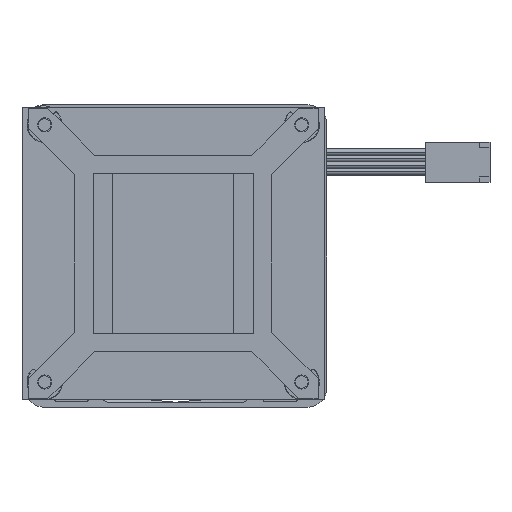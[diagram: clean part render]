
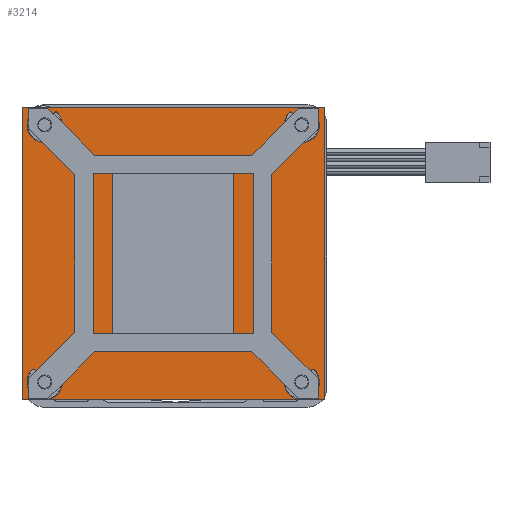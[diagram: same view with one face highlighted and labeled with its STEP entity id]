
A CAD part, front view. The second image highlights one B-rep face of the part: STEP entity #3214.
In plain terms, the highlighted planar face has unit normal (0, -1, 0) as drawn and (0, 0, 1) by its records, which use the part's own axes.
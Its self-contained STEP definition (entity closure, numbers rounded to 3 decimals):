
#29=CARTESIAN_POINT('',(25.5,25.5,0.));
#30=DIRECTION('',(0.,0.,1.));
#31=DIRECTION('',(1.,0.,0.));
#32=AXIS2_PLACEMENT_3D('',#29,#30,#31);
#34=CARTESIAN_POINT('',(25.5,25.5,0.));
#35=DIRECTION('',(0.,0.,1.));
#36=DIRECTION('',(-1.,0.,0.));
#37=AXIS2_PLACEMENT_3D('',#34,#35,#36);
#39=CARTESIAN_POINT('',(-25.5,25.5,0.));
#40=DIRECTION('',(0.,0.,1.));
#41=DIRECTION('',(1.,0.,0.));
#42=AXIS2_PLACEMENT_3D('',#39,#40,#41);
#44=CARTESIAN_POINT('',(-25.5,25.5,0.));
#45=DIRECTION('',(0.,0.,1.));
#46=DIRECTION('',(-1.,0.,0.));
#47=AXIS2_PLACEMENT_3D('',#44,#45,#46);
#49=CARTESIAN_POINT('',(-25.5,-25.5,0.));
#50=DIRECTION('',(0.,0.,1.));
#51=DIRECTION('',(1.,0.,0.));
#52=AXIS2_PLACEMENT_3D('',#49,#50,#51);
#54=CARTESIAN_POINT('',(-25.5,-25.5,0.));
#55=DIRECTION('',(0.,0.,1.));
#56=DIRECTION('',(-1.,0.,0.));
#57=AXIS2_PLACEMENT_3D('',#54,#55,#56);
#59=CARTESIAN_POINT('',(25.5,-25.5,0.));
#60=DIRECTION('',(0.,0.,1.));
#61=DIRECTION('',(1.,0.,0.));
#62=AXIS2_PLACEMENT_3D('',#59,#60,#61);
#64=CARTESIAN_POINT('',(25.5,-25.5,0.));
#65=DIRECTION('',(0.,0.,1.));
#66=DIRECTION('',(-1.,0.,0.));
#67=AXIS2_PLACEMENT_3D('',#64,#65,#66);
#69=DIRECTION('',(-1.,0.,0.));
#70=VECTOR('',#69,24.);
#71=CARTESIAN_POINT('',(12.,19.5,0.));
#72=LINE('',#71,#70);
#73=DIRECTION('',(1.,0.,0.));
#74=VECTOR('',#73,24.);
#75=CARTESIAN_POINT('',(-12.,-19.5,0.));
#76=LINE('',#75,#74);
#86=DIRECTION('',(-1.,0.,0.));
#87=VECTOR('',#86,60.);
#88=CARTESIAN_POINT('',(30.,29.,0.));
#89=LINE('',#88,#87);
#165=DIRECTION('',(0.,-1.,0.));
#166=VECTOR('',#165,58.);
#167=CARTESIAN_POINT('',(-30.,29.,0.));
#168=LINE('',#167,#166);
#503=DIRECTION('',(1.,0.,0.));
#504=VECTOR('',#503,60.);
#505=CARTESIAN_POINT('',(-30.,-29.,0.));
#506=LINE('',#505,#504);
#590=DIRECTION('',(0.,1.,0.));
#591=VECTOR('',#590,58.);
#592=CARTESIAN_POINT('',(30.,-29.,0.));
#593=LINE('',#592,#591);
#2357=DIRECTION('',(0.,-1.,0.));
#2358=VECTOR('',#2357,39.);
#2359=CARTESIAN_POINT('',(12.,19.5,0.));
#2360=LINE('',#2359,#2358);
#2377=DIRECTION('',(0.,1.,0.));
#2378=VECTOR('',#2377,39.);
#2379=CARTESIAN_POINT('',(-12.,-19.5,0.));
#2380=LINE('',#2379,#2378);
#2397=CARTESIAN_POINT('',(30.,29.,0.));
#2398=CARTESIAN_POINT('',(-30.,29.,0.));
#2399=VERTEX_POINT('',#2397);
#2400=VERTEX_POINT('',#2398);
#2401=CARTESIAN_POINT('',(30.,-29.,0.));
#2402=VERTEX_POINT('',#2401);
#2403=CARTESIAN_POINT('',(-30.,-29.,0.));
#2404=VERTEX_POINT('',#2403);
#2405=CARTESIAN_POINT('',(27.65,25.5,0.));
#2406=CARTESIAN_POINT('',(23.35,25.5,0.));
#2407=VERTEX_POINT('',#2405);
#2408=VERTEX_POINT('',#2406);
#2409=CARTESIAN_POINT('',(-23.35,25.5,0.));
#2410=CARTESIAN_POINT('',(-27.65,25.5,0.));
#2411=VERTEX_POINT('',#2409);
#2412=VERTEX_POINT('',#2410);
#2413=CARTESIAN_POINT('',(-23.35,-25.5,0.));
#2414=CARTESIAN_POINT('',(-27.65,-25.5,0.));
#2415=VERTEX_POINT('',#2413);
#2416=VERTEX_POINT('',#2414);
#2417=CARTESIAN_POINT('',(27.65,-25.5,0.));
#2418=CARTESIAN_POINT('',(23.35,-25.5,0.));
#2419=VERTEX_POINT('',#2417);
#2420=VERTEX_POINT('',#2418);
#3157=CARTESIAN_POINT('',(12.,19.5,0.));
#3158=CARTESIAN_POINT('',(-12.,19.5,0.));
#3159=VERTEX_POINT('',#3157);
#3160=VERTEX_POINT('',#3158);
#3161=CARTESIAN_POINT('',(-12.,-19.5,0.));
#3162=CARTESIAN_POINT('',(12.,-19.5,0.));
#3163=VERTEX_POINT('',#3161);
#3164=VERTEX_POINT('',#3162);
#3165=CARTESIAN_POINT('',(0.,0.,0.));
#3166=DIRECTION('',(0.,0.,1.));
#3167=DIRECTION('',(0.,-1.,0.));
#3168=AXIS2_PLACEMENT_3D('',#3165,#3166,#3167);
#3169=PLANE('',#3168);
#3171=ORIENTED_EDGE('',*,*,#3170,.F.);
#3173=ORIENTED_EDGE('',*,*,#3172,.F.);
#3175=ORIENTED_EDGE('',*,*,#3174,.F.);
#3177=ORIENTED_EDGE('',*,*,#3176,.F.);
#3178=EDGE_LOOP('',(#3171,#3173,#3175,#3177));
#3179=FACE_OUTER_BOUND('',#3178,.F.);
#3181=ORIENTED_EDGE('',*,*,#3180,.T.);
#3183=ORIENTED_EDGE('',*,*,#3182,.T.);
#3184=EDGE_LOOP('',(#3181,#3183));
#3185=FACE_BOUND('',#3184,.F.);
#3187=ORIENTED_EDGE('',*,*,#3186,.T.);
#3189=ORIENTED_EDGE('',*,*,#3188,.T.);
#3190=EDGE_LOOP('',(#3187,#3189));
#3191=FACE_BOUND('',#3190,.F.);
#3193=ORIENTED_EDGE('',*,*,#3192,.T.);
#3195=ORIENTED_EDGE('',*,*,#3194,.T.);
#3196=EDGE_LOOP('',(#3193,#3195));
#3197=FACE_BOUND('',#3196,.F.);
#3199=ORIENTED_EDGE('',*,*,#3198,.T.);
#3201=ORIENTED_EDGE('',*,*,#3200,.T.);
#3202=EDGE_LOOP('',(#3199,#3201));
#3203=FACE_BOUND('',#3202,.F.);
#3205=ORIENTED_EDGE('',*,*,#3204,.F.);
#3207=ORIENTED_EDGE('',*,*,#3206,.T.);
#3209=ORIENTED_EDGE('',*,*,#3208,.F.);
#3211=ORIENTED_EDGE('',*,*,#3210,.T.);
#3212=EDGE_LOOP('',(#3205,#3207,#3209,#3211));
#3213=FACE_BOUND('',#3212,.F.);
#3214=ADVANCED_FACE('',(#3179,#3185,#3191,#3197,#3203,#3213),#3169,.T.);
#33=CIRCLE('',#32,2.15);
#38=CIRCLE('',#37,2.15);
#43=CIRCLE('',#42,2.15);
#48=CIRCLE('',#47,2.15);
#53=CIRCLE('',#52,2.15);
#58=CIRCLE('',#57,2.15);
#63=CIRCLE('',#62,2.15);
#68=CIRCLE('',#67,2.15);
#3170=EDGE_CURVE('',#2399,#2400,#89,.T.);
#3172=EDGE_CURVE('',#2402,#2399,#593,.T.);
#3174=EDGE_CURVE('',#2404,#2402,#506,.T.);
#3176=EDGE_CURVE('',#2400,#2404,#168,.T.);
#3180=EDGE_CURVE('',#2407,#2408,#33,.T.);
#3182=EDGE_CURVE('',#2408,#2407,#38,.T.);
#3186=EDGE_CURVE('',#2411,#2412,#43,.T.);
#3188=EDGE_CURVE('',#2412,#2411,#48,.T.);
#3192=EDGE_CURVE('',#2415,#2416,#53,.T.);
#3194=EDGE_CURVE('',#2416,#2415,#58,.T.);
#3198=EDGE_CURVE('',#2419,#2420,#63,.T.);
#3200=EDGE_CURVE('',#2420,#2419,#68,.T.);
#3204=EDGE_CURVE('',#3159,#3164,#2360,.T.);
#3206=EDGE_CURVE('',#3159,#3160,#72,.T.);
#3208=EDGE_CURVE('',#3163,#3160,#2380,.T.);
#3210=EDGE_CURVE('',#3163,#3164,#76,.T.);
